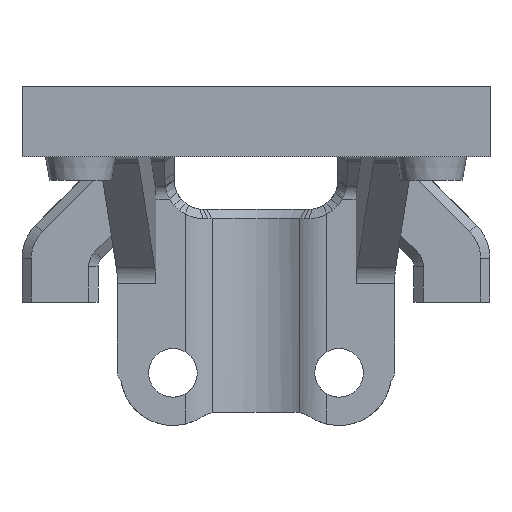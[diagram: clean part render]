
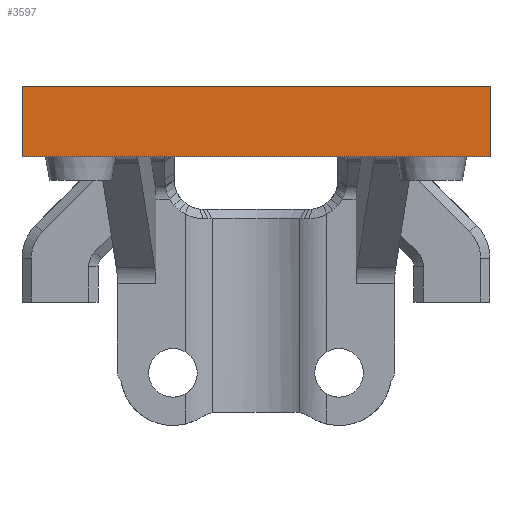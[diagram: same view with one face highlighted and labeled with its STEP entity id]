
A CAD part, front view. The second image highlights one B-rep face of the part: STEP entity #3597.
In plain terms, the highlighted planar face has unit normal (0, -1, 0).
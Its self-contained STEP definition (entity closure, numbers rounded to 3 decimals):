
#276=PLANE('',#3906);
#475=FACE_OUTER_BOUND('',#680,.T.);
#680=EDGE_LOOP('',(#3328,#3329,#3330,#3331));
#964=LINE('',#6220,#1298);
#1015=LINE('',#6657,#1349);
#1016=LINE('',#6660,#1350);
#1017=LINE('',#6661,#1351);
#1298=VECTOR('',#4660,10.);
#1349=VECTOR('',#4851,10.);
#1350=VECTOR('',#4854,10.);
#1351=VECTOR('',#4855,10.);
#1727=VERTEX_POINT('',#6217);
#1728=VERTEX_POINT('',#6219);
#1784=VERTEX_POINT('',#6655);
#1785=VERTEX_POINT('',#6659);
#2204=EDGE_CURVE('',#1728,#1727,#964,.T.);
#2308=EDGE_CURVE('',#1727,#1784,#1015,.T.);
#2309=EDGE_CURVE('',#1785,#1784,#1016,.T.);
#2310=EDGE_CURVE('',#1728,#1785,#1017,.T.);
#3328=ORIENTED_EDGE('',*,*,#2204,.T.);
#3329=ORIENTED_EDGE('',*,*,#2308,.T.);
#3330=ORIENTED_EDGE('',*,*,#2309,.F.);
#3331=ORIENTED_EDGE('',*,*,#2310,.F.);
#3597=ADVANCED_FACE('',(#475),#276,.T.);
#3906=AXIS2_PLACEMENT_3D('',#6658,#4852,#4853);
#4660=DIRECTION('',(1.,0.,0.));
#4851=DIRECTION('',(0.,0.,1.));
#4852=DIRECTION('center_axis',(0.,-1.,0.));
#4853=DIRECTION('ref_axis',(1.,0.,0.));
#4854=DIRECTION('',(1.,0.,0.));
#4855=DIRECTION('',(0.,0.,1.));
#6217=CARTESIAN_POINT('',(-0.1,-41.023,38.875));
#6219=CARTESIAN_POINT('',(-40.1,-41.023,38.875));
#6220=CARTESIAN_POINT('',(-40.1,-41.023,38.875));
#6655=CARTESIAN_POINT('',(-0.1,-41.023,44.875));
#6657=CARTESIAN_POINT('',(-0.1,-41.023,38.875));
#6658=CARTESIAN_POINT('Origin',(-40.1,-41.023,38.875));
#6659=CARTESIAN_POINT('',(-40.1,-41.023,44.875));
#6660=CARTESIAN_POINT('',(-40.1,-41.023,44.875));
#6661=CARTESIAN_POINT('',(-40.1,-41.023,38.875));
